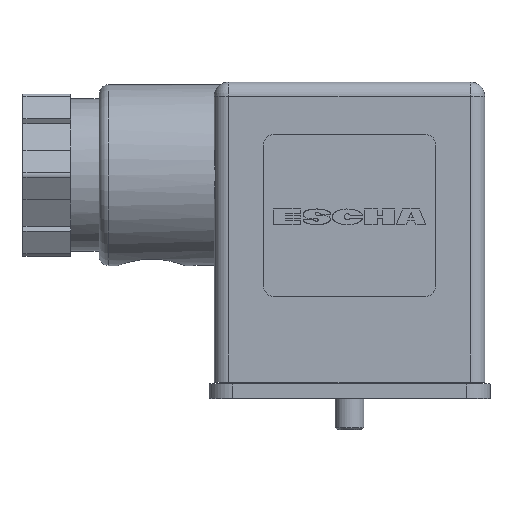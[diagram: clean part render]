
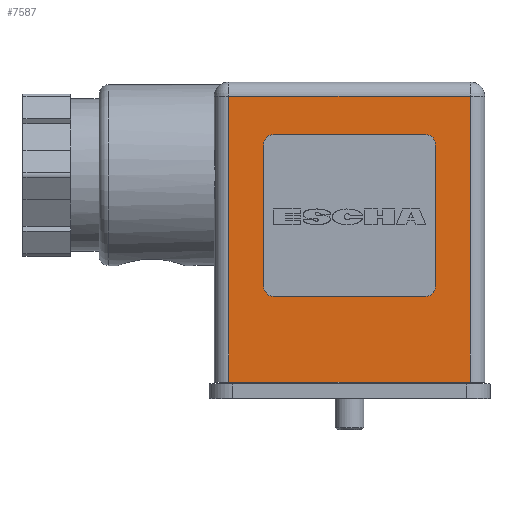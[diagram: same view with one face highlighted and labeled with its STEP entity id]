
A CAD part, top view. The second image highlights one B-rep face of the part: STEP entity #7587.
In plain terms, the highlighted planar face has unit normal (0, 0, 1).
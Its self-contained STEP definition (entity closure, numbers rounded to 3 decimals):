
#759=PLANE('',#20224);
#4082=LINE('',#30607,#6483);
#4085=LINE('',#30615,#6486);
#4088=LINE('',#30623,#6489);
#4091=LINE('',#30631,#6492);
#4109=LINE('',#30684,#6510);
#4111=LINE('',#30692,#6512);
#4117=LINE('',#30722,#6518);
#4118=LINE('',#30726,#6519);
#6483=VECTOR('',#24621,1.);
#6486=VECTOR('',#24630,1.);
#6489=VECTOR('',#24639,1.);
#6492=VECTOR('',#24648,1.);
#6510=VECTOR('',#24702,1.);
#6512=VECTOR('',#24710,1.);
#6518=VECTOR('',#24726,1.);
#6519=VECTOR('',#24731,1.);
#7587=ADVANCED_FACE('',(#7774,#7775),#759,.F.);
#7774=FACE_BOUND('',#8673,.T.);
#7775=FACE_BOUND('',#8674,.T.);
#8673=EDGE_LOOP('',(#13603,#13604,#13605,#13606,#13607,#13608,#13609,#13610));
#8674=EDGE_LOOP('',(#13611,#13612,#13613,#13614));
#13603=ORIENTED_EDGE('',*,*,#18488,.F.);
#13604=ORIENTED_EDGE('',*,*,#18486,.F.);
#13605=ORIENTED_EDGE('',*,*,#18484,.F.);
#13606=ORIENTED_EDGE('',*,*,#18482,.F.);
#13607=ORIENTED_EDGE('',*,*,#18480,.F.);
#13608=ORIENTED_EDGE('',*,*,#18478,.F.);
#13609=ORIENTED_EDGE('',*,*,#18476,.F.);
#13610=ORIENTED_EDGE('',*,*,#18473,.F.);
#13611=ORIENTED_EDGE('',*,*,#18514,.T.);
#13612=ORIENTED_EDGE('',*,*,#18518,.T.);
#13613=ORIENTED_EDGE('',*,*,#18530,.T.);
#13614=ORIENTED_EDGE('',*,*,#18528,.T.);
#15878=VERTEX_POINT('',#30602);
#15879=VERTEX_POINT('',#30603);
#15880=VERTEX_POINT('',#30608);
#15881=VERTEX_POINT('',#30612);
#15882=VERTEX_POINT('',#30616);
#15883=VERTEX_POINT('',#30620);
#15884=VERTEX_POINT('',#30624);
#15885=VERTEX_POINT('',#30628);
#15902=VERTEX_POINT('',#30683);
#15903=VERTEX_POINT('',#30685);
#15905=VERTEX_POINT('',#30691);
#15913=VERTEX_POINT('',#30723);
#18473=EDGE_CURVE('',#15878,#15879,#19064,.T.);
#18476=EDGE_CURVE('',#15879,#15880,#4082,.T.);
#18478=EDGE_CURVE('',#15880,#15881,#19065,.T.);
#18480=EDGE_CURVE('',#15881,#15882,#4085,.T.);
#18482=EDGE_CURVE('',#15882,#15883,#19066,.T.);
#18484=EDGE_CURVE('',#15883,#15884,#4088,.T.);
#18486=EDGE_CURVE('',#15884,#15885,#19067,.T.);
#18488=EDGE_CURVE('',#15885,#15878,#4091,.T.);
#18514=EDGE_CURVE('',#15903,#15902,#4109,.T.);
#18518=EDGE_CURVE('',#15902,#15905,#4111,.T.);
#18528=EDGE_CURVE('',#15913,#15903,#4117,.T.);
#18530=EDGE_CURVE('',#15905,#15913,#4118,.T.);
#19064=CIRCLE('',#20185,1.);
#19065=CIRCLE('',#20188,1.);
#19066=CIRCLE('',#20191,1.);
#19067=CIRCLE('',#20194,1.);
#20185=AXIS2_PLACEMENT_3D('',#30601,#24615,#24616);
#20188=AXIS2_PLACEMENT_3D('',#30611,#24625,#24626);
#20191=AXIS2_PLACEMENT_3D('',#30619,#24634,#24635);
#20194=AXIS2_PLACEMENT_3D('',#30627,#24643,#24644);
#20224=AXIS2_PLACEMENT_3D('',#30727,#24732,#24733);
#24615=DIRECTION('',(0.,0.,1.));
#24616=DIRECTION('',(1.,0.,0.));
#24621=DIRECTION('',(1.,0.,0.));
#24625=DIRECTION('',(0.,0.,1.));
#24626=DIRECTION('',(1.,0.,0.));
#24630=DIRECTION('',(0.,1.,0.));
#24634=DIRECTION('',(0.,0.,1.));
#24635=DIRECTION('',(1.,0.,0.));
#24639=DIRECTION('',(-1.,0.,0.));
#24643=DIRECTION('',(0.,0.,1.));
#24644=DIRECTION('',(1.,0.,0.));
#24648=DIRECTION('',(0.,-1.,0.));
#24702=DIRECTION('',(1.,0.,0.));
#24710=DIRECTION('',(0.,1.,0.));
#24726=DIRECTION('',(0.,-1.,0.));
#24731=DIRECTION('',(-1.,0.,0.));
#24732=DIRECTION('',(0.,0.,-1.));
#24733=DIRECTION('',(1.,0.,0.));
#30601=CARTESIAN_POINT('',(-8.,10.2,-4.5));
#30602=CARTESIAN_POINT('',(-9.,10.2,-4.5));
#30603=CARTESIAN_POINT('',(-8.,9.2,-4.5));
#30607=CARTESIAN_POINT('',(-8.,9.2,-4.5));
#30608=CARTESIAN_POINT('',(8.,9.2,-4.5));
#30611=CARTESIAN_POINT('',(8.,10.2,-4.5));
#30612=CARTESIAN_POINT('',(9.,10.2,-4.5));
#30615=CARTESIAN_POINT('',(9.,25.2,-4.5));
#30616=CARTESIAN_POINT('',(9.,25.2,-4.5));
#30619=CARTESIAN_POINT('',(8.,25.2,-4.5));
#30620=CARTESIAN_POINT('',(8.,26.2,-4.5));
#30623=CARTESIAN_POINT('',(-8.,26.2,-4.5));
#30624=CARTESIAN_POINT('',(-8.,26.2,-4.5));
#30627=CARTESIAN_POINT('',(-8.,25.2,-4.5));
#30628=CARTESIAN_POINT('',(-9.,25.2,-4.5));
#30631=CARTESIAN_POINT('',(-9.,25.2,-4.5));
#30683=CARTESIAN_POINT('',(12.7,0.2,-4.5));
#30684=CARTESIAN_POINT('',(-14.2,0.2,-4.5));
#30685=CARTESIAN_POINT('',(-12.7,0.2,-4.5));
#30691=CARTESIAN_POINT('',(12.7,30.2,-4.5));
#30692=CARTESIAN_POINT('',(12.7,31.7,-4.5));
#30722=CARTESIAN_POINT('',(-12.7,31.7,-4.5));
#30723=CARTESIAN_POINT('',(-12.7,30.2,-4.5));
#30726=CARTESIAN_POINT('',(-14.2,30.2,-4.5));
#30727=CARTESIAN_POINT('',(-14.2,31.7,-4.5));
